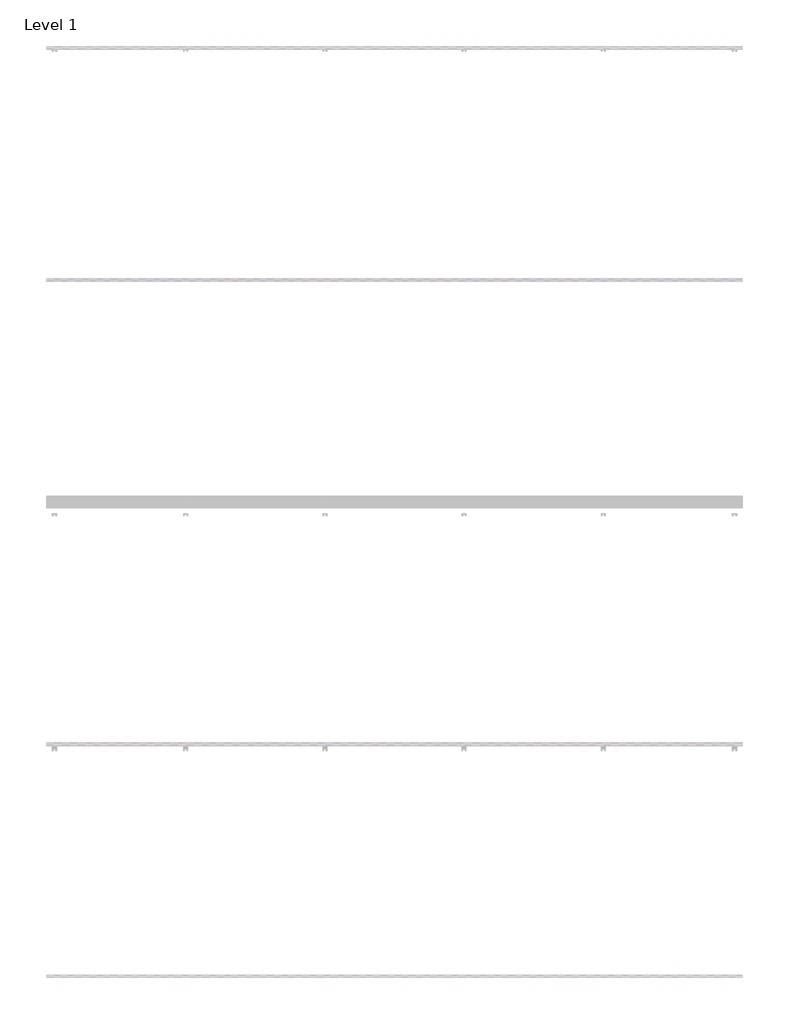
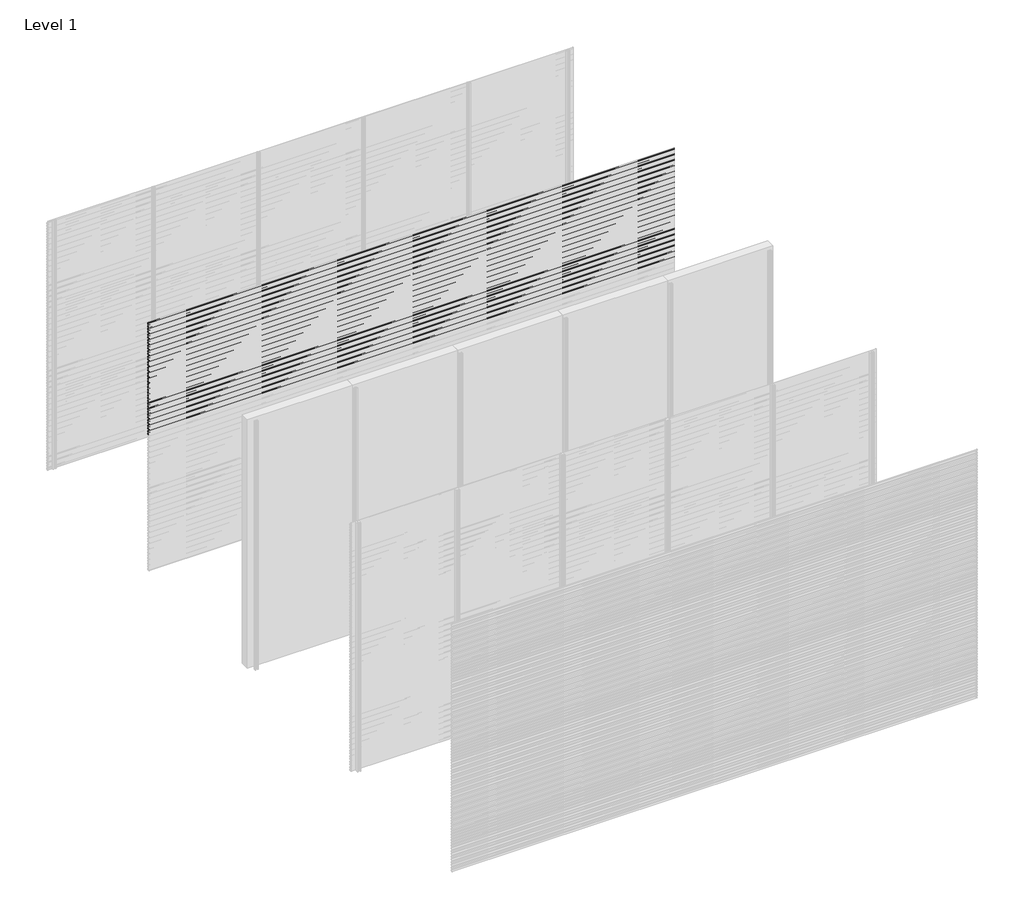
# One storey, part 63 of 77: 72 proxies.
"""IFC4 building model written with IfcOpenShell, lengths in millimetres."""

from ifc_helpers import new_model, si_unit, frame, origin, place, context, project, spatial, polyline, outline, extrude, element, save

model = new_model("IFC4")

# Units and contexts
model_context = context("Model", 3, world=origin())
ifc_project = project(units=[si_unit("LENGTHUNIT", "METRE", prefix="MILLI")], contexts=[model_context])

# Site, building, storey
site = spatial("IfcSite", under=ifc_project)
building = spatial("IfcBuilding", under=site)
storey = spatial("IfcBuildingStorey", under=building, Name="Level 1", Elevation=0.0)

# Proxies
placement = place(None, origin())
element("IfcBuildingElementProxy", 1, Name="Wall Sweeps", at=placement, inside=storey, context=model_context, shape_type="SweptSolid", body=[
    extrude(outline(polyline([(-7978.6, 2972.5359887), (-7998.0, 2983.7366691), (-7998.0, 2997.0), (-7997.0, 2997.0), (-7997.0, 2984.3191057), (-7977.6, 2973.1185105), (-7977.6, 2959.5185105), (-7978.6, 2961.0953129), (-7978.6, 2966.9032062), (-7995.9773817, 2958.8), (-7996.4, 2959.7063078), (-7978.6, 2968.0065841), (-7978.6, 2972.5359887)])), frame((0.0, 0.0, 0.0), z_axis=(1.0, 0.0, 0.0), x_axis=(0.0, 1.0, 0.0)), (0.0, 0.0, 1.0), 6000.0),
])
element("IfcBuildingElementProxy", 2, Name="Wall Sweeps", at=placement, inside=storey, context=model_context, shape_type="SweptSolid", body=[
    extrude(outline(polyline([(-7978.6, 2939.2359887), (-7998.0, 2950.4366691), (-7998.0, 2963.7), (-7997.0, 2963.7), (-7997.0, 2951.0191057), (-7977.6, 2939.8185105), (-7977.6, 2926.2185105), (-7978.6, 2927.7953129), (-7978.6, 2933.6032062), (-7995.9773817, 2925.5), (-7996.4, 2926.4063078), (-7978.6, 2934.7065841), (-7978.6, 2939.2359887)])), frame((0.0, 0.0, 0.0), z_axis=(1.0, 0.0, 0.0), x_axis=(0.0, 1.0, 0.0)), (0.0, 0.0, 1.0), 6000.0),
])
element("IfcBuildingElementProxy", 3, Name="Wall Sweeps", at=placement, inside=storey, context=model_context, shape_type="SweptSolid", body=[
    extrude(outline(polyline([(-7978.6, 2905.9359887), (-7998.0, 2917.1366691), (-7998.0, 2930.4), (-7997.0, 2930.4), (-7997.0, 2917.7191057), (-7977.6, 2906.5185105), (-7977.6, 2892.9185105), (-7978.6, 2894.4953129), (-7978.6, 2900.3032062), (-7995.9773817, 2892.2), (-7996.4, 2893.1063078), (-7978.6, 2901.4065841), (-7978.6, 2905.9359887)])), frame((0.0, 0.0, 0.0), z_axis=(1.0, 0.0, 0.0), x_axis=(0.0, 1.0, 0.0)), (0.0, 0.0, 1.0), 6000.0),
])
element("IfcBuildingElementProxy", 4, Name="Wall Sweeps", at=placement, inside=storey, context=model_context, shape_type="SweptSolid", body=[
    extrude(outline(polyline([(-7978.6, 2872.6359887), (-7998.0, 2883.8366691), (-7998.0, 2897.1), (-7997.0, 2897.1), (-7997.0, 2884.4191057), (-7977.6, 2873.2185105), (-7977.6, 2859.6185105), (-7978.6, 2861.1953129), (-7978.6, 2867.0032062), (-7995.9773817, 2858.9), (-7996.4, 2859.8063078), (-7978.6, 2868.1065841), (-7978.6, 2872.6359887)])), frame((0.0, 0.0, 0.0), z_axis=(1.0, 0.0, 0.0), x_axis=(0.0, 1.0, 0.0)), (0.0, 0.0, 1.0), 6000.0),
])
element("IfcBuildingElementProxy", 5, Name="Wall Sweeps", at=placement, inside=storey, context=model_context, shape_type="SweptSolid", body=[
    extrude(outline(polyline([(-7978.6, 2839.3359887), (-7998.0, 2850.5366691), (-7998.0, 2863.8), (-7997.0, 2863.8), (-7997.0, 2851.1191057), (-7977.6, 2839.9185105), (-7977.6, 2826.3185105), (-7978.6, 2827.8953129), (-7978.6, 2833.7032062), (-7995.9773817, 2825.6), (-7996.4, 2826.5063078), (-7978.6, 2834.8065841), (-7978.6, 2839.3359887)])), frame((0.0, 0.0, 0.0), z_axis=(1.0, 0.0, 0.0), x_axis=(0.0, 1.0, 0.0)), (0.0, 0.0, 1.0), 6000.0),
])
element("IfcBuildingElementProxy", 6, Name="Wall Sweeps", at=placement, inside=storey, context=model_context, shape_type="SweptSolid", body=[
    extrude(outline(polyline([(-7978.6, 2806.0359887), (-7998.0, 2817.2366691), (-7998.0, 2830.5), (-7997.0, 2830.5), (-7997.0, 2817.8191057), (-7977.6, 2806.6185105), (-7977.6, 2793.0185105), (-7978.6, 2794.5953129), (-7978.6, 2800.4032062), (-7995.9773817, 2792.3), (-7996.4, 2793.2063078), (-7978.6, 2801.5065841), (-7978.6, 2806.0359887)])), frame((0.0, 0.0, 0.0), z_axis=(1.0, 0.0, 0.0), x_axis=(0.0, 1.0, 0.0)), (0.0, 0.0, 1.0), 6000.0),
])
element("IfcBuildingElementProxy", 7, Name="Wall Sweeps", at=placement, inside=storey, context=model_context, shape_type="SweptSolid", body=[
    extrude(outline(polyline([(-7978.6, 2772.7359887), (-7998.0, 2783.9366691), (-7998.0, 2797.2), (-7997.0, 2797.2), (-7997.0, 2784.5191057), (-7977.6, 2773.3185105), (-7977.6, 2759.7185105), (-7978.6, 2761.2953129), (-7978.6, 2767.1032062), (-7995.9773817, 2759.0), (-7996.4, 2759.9063078), (-7978.6, 2768.2065841), (-7978.6, 2772.7359887)])), frame((0.0, 0.0, 0.0), z_axis=(1.0, 0.0, 0.0), x_axis=(0.0, 1.0, 0.0)), (0.0, 0.0, 1.0), 6000.0),
])
element("IfcBuildingElementProxy", 8, Name="Wall Sweeps", at=placement, inside=storey, context=model_context, shape_type="SweptSolid", body=[
    extrude(outline(polyline([(-7978.6, 2739.4359887), (-7998.0, 2750.6366691), (-7998.0, 2763.9), (-7997.0, 2763.9), (-7997.0, 2751.2191057), (-7977.6, 2740.0185105), (-7977.6, 2726.4185105), (-7978.6, 2727.9953129), (-7978.6, 2733.8032062), (-7995.9773817, 2725.7), (-7996.4, 2726.6063078), (-7978.6, 2734.9065841), (-7978.6, 2739.4359887)])), frame((0.0, 0.0, 0.0), z_axis=(1.0, 0.0, 0.0), x_axis=(0.0, 1.0, 0.0)), (0.0, 0.0, 1.0), 6000.0),
])
element("IfcBuildingElementProxy", 9, Name="Wall Sweeps", at=placement, inside=storey, context=model_context, shape_type="SweptSolid", body=[
    extrude(outline(polyline([(-7978.6, 2706.1359887), (-7998.0, 2717.3366691), (-7998.0, 2730.6), (-7997.0, 2730.6), (-7997.0, 2717.9191057), (-7977.6, 2706.7185105), (-7977.6, 2693.1185105), (-7978.6, 2694.6953129), (-7978.6, 2700.5032062), (-7995.9773817, 2692.4), (-7996.4, 2693.3063078), (-7978.6, 2701.6065841), (-7978.6, 2706.1359887)])), frame((0.0, 0.0, 0.0), z_axis=(1.0, 0.0, 0.0), x_axis=(0.0, 1.0, 0.0)), (0.0, 0.0, 1.0), 6000.0),
])
element("IfcBuildingElementProxy", 10, Name="Wall Sweeps", at=placement, inside=storey, context=model_context, shape_type="SweptSolid", body=[
    extrude(outline(polyline([(-7978.6, 2672.8359887), (-7998.0, 2684.0366691), (-7998.0, 2697.3), (-7997.0, 2697.3), (-7997.0, 2684.6191057), (-7977.6, 2673.4185105), (-7977.6, 2659.8185105), (-7978.6, 2661.3953129), (-7978.6, 2667.2032062), (-7995.9773817, 2659.1), (-7996.4, 2660.0063078), (-7978.6, 2668.3065841), (-7978.6, 2672.8359887)])), frame((0.0, 0.0, 0.0), z_axis=(1.0, 0.0, 0.0), x_axis=(0.0, 1.0, 0.0)), (0.0, 0.0, 1.0), 6000.0),
])
element("IfcBuildingElementProxy", 11, Name="Wall Sweeps", at=placement, inside=storey, context=model_context, shape_type="SweptSolid", body=[
    extrude(outline(polyline([(-7978.6, 2639.5359887), (-7998.0, 2650.7366691), (-7998.0, 2664.0), (-7997.0, 2664.0), (-7997.0, 2651.3191057), (-7977.6, 2640.1185105), (-7977.6, 2626.5185105), (-7978.6, 2628.0953129), (-7978.6, 2633.9032062), (-7995.9773817, 2625.8), (-7996.4, 2626.7063078), (-7978.6, 2635.0065841), (-7978.6, 2639.5359887)])), frame((0.0, 0.0, 0.0), z_axis=(1.0, 0.0, 0.0), x_axis=(0.0, 1.0, 0.0)), (0.0, 0.0, 1.0), 6000.0),
])
element("IfcBuildingElementProxy", 12, Name="Wall Sweeps", at=placement, inside=storey, context=model_context, shape_type="SweptSolid", body=[
    extrude(outline(polyline([(-7978.6, 2606.2359887), (-7998.0, 2617.4366691), (-7998.0, 2630.7), (-7997.0, 2630.7), (-7997.0, 2618.0191057), (-7977.6, 2606.8185105), (-7977.6, 2593.2185105), (-7978.6, 2594.7953129), (-7978.6, 2600.6032062), (-7995.9773817, 2592.5), (-7996.4, 2593.4063078), (-7978.6, 2601.7065841), (-7978.6, 2606.2359887)])), frame((0.0, 0.0, 0.0), z_axis=(1.0, 0.0, 0.0), x_axis=(0.0, 1.0, 0.0)), (0.0, 0.0, 1.0), 6000.0),
])
element("IfcBuildingElementProxy", 13, Name="Wall Sweeps", at=placement, inside=storey, context=model_context, shape_type="SweptSolid", body=[
    extrude(outline(polyline([(-7978.6, 2572.9359887), (-7998.0, 2584.1366691), (-7998.0, 2597.4), (-7997.0, 2597.4), (-7997.0, 2584.7191057), (-7977.6, 2573.5185105), (-7977.6, 2559.9185105), (-7978.6, 2561.4953129), (-7978.6, 2567.3032062), (-7995.9773817, 2559.2), (-7996.4, 2560.1063078), (-7978.6, 2568.4065841), (-7978.6, 2572.9359887)])), frame((0.0, 0.0, 0.0), z_axis=(1.0, 0.0, 0.0), x_axis=(0.0, 1.0, 0.0)), (0.0, 0.0, 1.0), 6000.0),
])
element("IfcBuildingElementProxy", 14, Name="Wall Sweeps", at=placement, inside=storey, context=model_context, shape_type="SweptSolid", body=[
    extrude(outline(polyline([(-7978.6, 2539.6359887), (-7998.0, 2550.8366691), (-7998.0, 2564.1), (-7997.0, 2564.1), (-7997.0, 2551.4191057), (-7977.6, 2540.2185105), (-7977.6, 2526.6185105), (-7978.6, 2528.1953129), (-7978.6, 2534.0032062), (-7995.9773817, 2525.9), (-7996.4, 2526.8063078), (-7978.6, 2535.1065841), (-7978.6, 2539.6359887)])), frame((0.0, 0.0, 0.0), z_axis=(1.0, 0.0, 0.0), x_axis=(0.0, 1.0, 0.0)), (0.0, 0.0, 1.0), 6000.0),
])
element("IfcBuildingElementProxy", 15, Name="Wall Sweeps", at=placement, inside=storey, context=model_context, shape_type="SweptSolid", body=[
    extrude(outline(polyline([(-7978.6, 2506.3359887), (-7998.0, 2517.5366691), (-7998.0, 2530.8), (-7997.0, 2530.8), (-7997.0, 2518.1191057), (-7977.6, 2506.9185105), (-7977.6, 2493.3185105), (-7978.6, 2494.8953129), (-7978.6, 2500.7032062), (-7995.9773817, 2492.6), (-7996.4, 2493.5063078), (-7978.6, 2501.8065841), (-7978.6, 2506.3359887)])), frame((0.0, 0.0, 0.0), z_axis=(1.0, 0.0, 0.0), x_axis=(0.0, 1.0, 0.0)), (0.0, 0.0, 1.0), 6000.0),
])
element("IfcBuildingElementProxy", 16, Name="Wall Sweeps", at=placement, inside=storey, context=model_context, shape_type="SweptSolid", body=[
    extrude(outline(polyline([(-7978.6, 2473.0359887), (-7998.0, 2484.2366691), (-7998.0, 2497.5), (-7997.0, 2497.5), (-7997.0, 2484.8191057), (-7977.6, 2473.6185105), (-7977.6, 2460.0185105), (-7978.6, 2461.5953129), (-7978.6, 2467.4032062), (-7995.9773817, 2459.3), (-7996.4, 2460.2063078), (-7978.6, 2468.5065841), (-7978.6, 2473.0359887)])), frame((0.0, 0.0, 0.0), z_axis=(1.0, 0.0, 0.0), x_axis=(0.0, 1.0, 0.0)), (0.0, 0.0, 1.0), 6000.0),
])
element("IfcBuildingElementProxy", 17, Name="Wall Sweeps", at=placement, inside=storey, context=model_context, shape_type="SweptSolid", body=[
    extrude(outline(polyline([(-7978.6, 2439.7359887), (-7998.0, 2450.9366691), (-7998.0, 2464.2), (-7997.0, 2464.2), (-7997.0, 2451.5191057), (-7977.6, 2440.3185105), (-7977.6, 2426.7185105), (-7978.6, 2428.2953129), (-7978.6, 2434.1032062), (-7995.9773817, 2426.0), (-7996.4, 2426.9063078), (-7978.6, 2435.2065841), (-7978.6, 2439.7359887)])), frame((0.0, 0.0, 0.0), z_axis=(1.0, 0.0, 0.0), x_axis=(0.0, 1.0, 0.0)), (0.0, 0.0, 1.0), 6000.0),
])
element("IfcBuildingElementProxy", 18, Name="Wall Sweeps", at=placement, inside=storey, context=model_context, shape_type="SweptSolid", body=[
    extrude(outline(polyline([(-7978.6, 2406.4359887), (-7998.0, 2417.6366691), (-7998.0, 2430.9), (-7997.0, 2430.9), (-7997.0, 2418.2191057), (-7977.6, 2407.0185105), (-7977.6, 2393.4185105), (-7978.6, 2394.9953129), (-7978.6, 2400.8032062), (-7995.9773817, 2392.7), (-7996.4, 2393.6063078), (-7978.6, 2401.9065841), (-7978.6, 2406.4359887)])), frame((0.0, 0.0, 0.0), z_axis=(1.0, 0.0, 0.0), x_axis=(0.0, 1.0, 0.0)), (0.0, 0.0, 1.0), 6000.0),
])
element("IfcBuildingElementProxy", 19, Name="Wall Sweeps", at=placement, inside=storey, context=model_context, shape_type="SweptSolid", body=[
    extrude(outline(polyline([(-7978.6, 2373.1359887), (-7998.0, 2384.3366691), (-7998.0, 2397.6), (-7997.0, 2397.6), (-7997.0, 2384.9191057), (-7977.6, 2373.7185105), (-7977.6, 2360.1185105), (-7978.6, 2361.6953129), (-7978.6, 2367.5032062), (-7995.9773817, 2359.4), (-7996.4, 2360.3063078), (-7978.6, 2368.6065841), (-7978.6, 2373.1359887)])), frame((0.0, 0.0, 0.0), z_axis=(1.0, 0.0, 0.0), x_axis=(0.0, 1.0, 0.0)), (0.0, 0.0, 1.0), 6000.0),
])
element("IfcBuildingElementProxy", 20, Name="Wall Sweeps", at=placement, inside=storey, context=model_context, shape_type="SweptSolid", body=[
    extrude(outline(polyline([(-7978.6, 2339.8359887), (-7998.0, 2351.0366691), (-7998.0, 2364.3), (-7997.0, 2364.3), (-7997.0, 2351.6191057), (-7977.6, 2340.4185105), (-7977.6, 2326.8185105), (-7978.6, 2328.3953129), (-7978.6, 2334.2032062), (-7995.9773817, 2326.1), (-7996.4, 2327.0063078), (-7978.6, 2335.3065841), (-7978.6, 2339.8359887)])), frame((0.0, 0.0, 0.0), z_axis=(1.0, 0.0, 0.0), x_axis=(0.0, 1.0, 0.0)), (0.0, 0.0, 1.0), 6000.0),
])
element("IfcBuildingElementProxy", 21, Name="Wall Sweeps", at=placement, inside=storey, context=model_context, shape_type="SweptSolid", body=[
    extrude(outline(polyline([(-7978.6, 2306.5359887), (-7998.0, 2317.7366691), (-7998.0, 2331.0), (-7997.0, 2331.0), (-7997.0, 2318.3191057), (-7977.6, 2307.1185105), (-7977.6, 2293.5185105), (-7978.6, 2295.0953129), (-7978.6, 2300.9032062), (-7995.9773817, 2292.8), (-7996.4, 2293.7063078), (-7978.6, 2302.0065841), (-7978.6, 2306.5359887)])), frame((0.0, 0.0, 0.0), z_axis=(1.0, 0.0, 0.0), x_axis=(0.0, 1.0, 0.0)), (0.0, 0.0, 1.0), 6000.0),
])
element("IfcBuildingElementProxy", 22, Name="Wall Sweeps", at=placement, inside=storey, context=model_context, shape_type="SweptSolid", body=[
    extrude(outline(polyline([(-7978.6, 2273.2359887), (-7998.0, 2284.4366691), (-7998.0, 2297.7), (-7997.0, 2297.7), (-7997.0, 2285.0191057), (-7977.6, 2273.8185105), (-7977.6, 2260.2185105), (-7978.6, 2261.7953129), (-7978.6, 2267.6032062), (-7995.9773817, 2259.5), (-7996.4, 2260.4063078), (-7978.6, 2268.7065841), (-7978.6, 2273.2359887)])), frame((0.0, 0.0, 0.0), z_axis=(1.0, 0.0, 0.0), x_axis=(0.0, 1.0, 0.0)), (0.0, 0.0, 1.0), 6000.0),
])
element("IfcBuildingElementProxy", 23, Name="Wall Sweeps", at=placement, inside=storey, context=model_context, shape_type="SweptSolid", body=[
    extrude(outline(polyline([(-7978.6, 2239.9359887), (-7998.0, 2251.1366691), (-7998.0, 2264.4), (-7997.0, 2264.4), (-7997.0, 2251.7191057), (-7977.6, 2240.5185105), (-7977.6, 2226.9185105), (-7978.6, 2228.4953129), (-7978.6, 2234.3032062), (-7995.9773817, 2226.2), (-7996.4, 2227.1063078), (-7978.6, 2235.4065841), (-7978.6, 2239.9359887)])), frame((0.0, 0.0, 0.0), z_axis=(1.0, 0.0, 0.0), x_axis=(0.0, 1.0, 0.0)), (0.0, 0.0, 1.0), 6000.0),
])
element("IfcBuildingElementProxy", 24, Name="Wall Sweeps", at=placement, inside=storey, context=model_context, shape_type="SweptSolid", body=[
    extrude(outline(polyline([(-7978.6, 2206.6359887), (-7998.0, 2217.8366691), (-7998.0, 2231.1), (-7997.0, 2231.1), (-7997.0, 2218.4191057), (-7977.6, 2207.2185105), (-7977.6, 2193.6185105), (-7978.6, 2195.1953129), (-7978.6, 2201.0032062), (-7995.9773817, 2192.9), (-7996.4, 2193.8063078), (-7978.6, 2202.1065841), (-7978.6, 2206.6359887)])), frame((0.0, 0.0, 0.0), z_axis=(1.0, 0.0, 0.0), x_axis=(0.0, 1.0, 0.0)), (0.0, 0.0, 1.0), 6000.0),
])
element("IfcBuildingElementProxy", 25, Name="Wall Sweeps", at=placement, inside=storey, context=model_context, shape_type="SweptSolid", body=[
    extrude(outline(polyline([(-7978.6, 2173.3359887), (-7998.0, 2184.5366691), (-7998.0, 2197.8), (-7997.0, 2197.8), (-7997.0, 2185.1191057), (-7977.6, 2173.9185105), (-7977.6, 2160.3185105), (-7978.6, 2161.8953129), (-7978.6, 2167.7032062), (-7995.9773817, 2159.6), (-7996.4, 2160.5063078), (-7978.6, 2168.8065841), (-7978.6, 2173.3359887)])), frame((0.0, 0.0, 0.0), z_axis=(1.0, 0.0, 0.0), x_axis=(0.0, 1.0, 0.0)), (0.0, 0.0, 1.0), 6000.0),
])
element("IfcBuildingElementProxy", 26, Name="Wall Sweeps", at=placement, inside=storey, context=model_context, shape_type="SweptSolid", body=[
    extrude(outline(polyline([(-7978.6, 2140.0359887), (-7998.0, 2151.2366691), (-7998.0, 2164.5), (-7997.0, 2164.5), (-7997.0, 2151.8191057), (-7977.6, 2140.6185105), (-7977.6, 2127.0185105), (-7978.6, 2128.5953129), (-7978.6, 2134.4032062), (-7995.9773817, 2126.3), (-7996.4, 2127.2063078), (-7978.6, 2135.5065841), (-7978.6, 2140.0359887)])), frame((0.0, 0.0, 0.0), z_axis=(1.0, 0.0, 0.0), x_axis=(0.0, 1.0, 0.0)), (0.0, 0.0, 1.0), 6000.0),
])
element("IfcBuildingElementProxy", 27, Name="Wall Sweeps", at=placement, inside=storey, context=model_context, shape_type="SweptSolid", body=[
    extrude(outline(polyline([(-7978.6, 2106.7359887), (-7998.0, 2117.9366691), (-7998.0, 2131.2), (-7997.0, 2131.2), (-7997.0, 2118.5191057), (-7977.6, 2107.3185105), (-7977.6, 2093.7185105), (-7978.6, 2095.2953129), (-7978.6, 2101.1032062), (-7995.9773817, 2093.0), (-7996.4, 2093.9063078), (-7978.6, 2102.2065841), (-7978.6, 2106.7359887)])), frame((0.0, 0.0, 0.0), z_axis=(1.0, 0.0, 0.0), x_axis=(0.0, 1.0, 0.0)), (0.0, 0.0, 1.0), 6000.0),
])
element("IfcBuildingElementProxy", 28, Name="Wall Sweeps", at=placement, inside=storey, context=model_context, shape_type="SweptSolid", body=[
    extrude(outline(polyline([(-7978.6, 2073.4359887), (-7998.0, 2084.6366691), (-7998.0, 2097.9), (-7997.0, 2097.9), (-7997.0, 2085.2191057), (-7977.6, 2074.0185105), (-7977.6, 2060.4185105), (-7978.6, 2061.9953129), (-7978.6, 2067.8032062), (-7995.9773817, 2059.7), (-7996.4, 2060.6063078), (-7978.6, 2068.9065841), (-7978.6, 2073.4359887)])), frame((0.0, 0.0, 0.0), z_axis=(1.0, 0.0, 0.0), x_axis=(0.0, 1.0, 0.0)), (0.0, 0.0, 1.0), 6000.0),
])
element("IfcBuildingElementProxy", 29, Name="Wall Sweeps", at=placement, inside=storey, context=model_context, shape_type="SweptSolid", body=[
    extrude(outline(polyline([(-7978.6, 2040.1359887), (-7998.0, 2051.3366691), (-7998.0, 2064.6), (-7997.0, 2064.6), (-7997.0, 2051.9191057), (-7977.6, 2040.7185105), (-7977.6, 2027.1185105), (-7978.6, 2028.6953129), (-7978.6, 2034.5032062), (-7995.9773817, 2026.4), (-7996.4, 2027.3063078), (-7978.6, 2035.6065841), (-7978.6, 2040.1359887)])), frame((0.0, 0.0, 0.0), z_axis=(1.0, 0.0, 0.0), x_axis=(0.0, 1.0, 0.0)), (0.0, 0.0, 1.0), 6000.0),
])
element("IfcBuildingElementProxy", 30, Name="Wall Sweeps", at=placement, inside=storey, context=model_context, shape_type="SweptSolid", body=[
    extrude(outline(polyline([(-7978.6, 2006.8359887), (-7998.0, 2018.0366691), (-7998.0, 2031.3), (-7997.0, 2031.3), (-7997.0, 2018.6191057), (-7977.6, 2007.4185105), (-7977.6, 1993.8185105), (-7978.6, 1995.3953129), (-7978.6, 2001.2032062), (-7995.9773817, 1993.1), (-7996.4, 1994.0063078), (-7978.6, 2002.3065841), (-7978.6, 2006.8359887)])), frame((0.0, 0.0, 0.0), z_axis=(1.0, 0.0, 0.0), x_axis=(0.0, 1.0, 0.0)), (0.0, 0.0, 1.0), 6000.0),
])
element("IfcBuildingElementProxy", 31, Name="Wall Sweeps", at=placement, inside=storey, context=model_context, shape_type="SweptSolid", body=[
    extrude(outline(polyline([(-7978.6, 1973.5359887), (-7998.0, 1984.7366691), (-7998.0, 1998.0), (-7997.0, 1998.0), (-7997.0, 1985.3191057), (-7977.6, 1974.1185105), (-7977.6, 1960.5185105), (-7978.6, 1962.0953129), (-7978.6, 1967.9032062), (-7995.9773817, 1959.8), (-7996.4, 1960.7063078), (-7978.6, 1969.0065841), (-7978.6, 1973.5359887)])), frame((0.0, 0.0, 0.0), z_axis=(1.0, 0.0, 0.0), x_axis=(0.0, 1.0, 0.0)), (0.0, 0.0, 1.0), 6000.0),
])
element("IfcBuildingElementProxy", 32, Name="Wall Sweeps", at=placement, inside=storey, context=model_context, shape_type="SweptSolid", body=[
    extrude(outline(polyline([(-7978.6, 1940.2359887), (-7998.0, 1951.4366691), (-7998.0, 1964.7), (-7997.0, 1964.7), (-7997.0, 1952.0191057), (-7977.6, 1940.8185105), (-7977.6, 1927.2185105), (-7978.6, 1928.7953129), (-7978.6, 1934.6032062), (-7995.9773817, 1926.5), (-7996.4, 1927.4063078), (-7978.6, 1935.7065841), (-7978.6, 1940.2359887)])), frame((0.0, 0.0, 0.0), z_axis=(1.0, 0.0, 0.0), x_axis=(0.0, 1.0, 0.0)), (0.0, 0.0, 1.0), 6000.0),
])
element("IfcBuildingElementProxy", 33, Name="Wall Sweeps", at=placement, inside=storey, context=model_context, shape_type="SweptSolid", body=[
    extrude(outline(polyline([(-7978.6, 1906.9359887), (-7998.0, 1918.1366691), (-7998.0, 1931.4), (-7997.0, 1931.4), (-7997.0, 1918.7191057), (-7977.6, 1907.5185105), (-7977.6, 1893.9185105), (-7978.6, 1895.4953129), (-7978.6, 1901.3032062), (-7995.9773817, 1893.2), (-7996.4, 1894.1063078), (-7978.6, 1902.4065841), (-7978.6, 1906.9359887)])), frame((0.0, 0.0, 0.0), z_axis=(1.0, 0.0, 0.0), x_axis=(0.0, 1.0, 0.0)), (0.0, 0.0, 1.0), 6000.0),
])
element("IfcBuildingElementProxy", 34, Name="Wall Sweeps", at=placement, inside=storey, context=model_context, shape_type="SweptSolid", body=[
    extrude(outline(polyline([(-7978.6, 1873.6359887), (-7998.0, 1884.8366691), (-7998.0, 1898.1), (-7997.0, 1898.1), (-7997.0, 1885.4191057), (-7977.6, 1874.2185105), (-7977.6, 1860.6185105), (-7978.6, 1862.1953129), (-7978.6, 1868.0032062), (-7995.9773817, 1859.9), (-7996.4, 1860.8063078), (-7978.6, 1869.1065841), (-7978.6, 1873.6359887)])), frame((0.0, 0.0, 0.0), z_axis=(1.0, 0.0, 0.0), x_axis=(0.0, 1.0, 0.0)), (0.0, 0.0, 1.0), 6000.0),
])
element("IfcBuildingElementProxy", 35, Name="Wall Sweeps", at=placement, inside=storey, context=model_context, shape_type="SweptSolid", body=[
    extrude(outline(polyline([(-7978.6, 1840.3359887), (-7998.0, 1851.5366691), (-7998.0, 1864.8), (-7997.0, 1864.8), (-7997.0, 1852.1191057), (-7977.6, 1840.9185105), (-7977.6, 1827.3185105), (-7978.6, 1828.8953129), (-7978.6, 1834.7032062), (-7995.9773817, 1826.6), (-7996.4, 1827.5063078), (-7978.6, 1835.8065841), (-7978.6, 1840.3359887)])), frame((0.0, 0.0, 0.0), z_axis=(1.0, 0.0, 0.0), x_axis=(0.0, 1.0, 0.0)), (0.0, 0.0, 1.0), 6000.0),
])
element("IfcBuildingElementProxy", 36, Name="Wall Sweeps", at=placement, inside=storey, context=model_context, shape_type="SweptSolid", body=[
    extrude(outline(polyline([(-7978.6, 1807.0359887), (-7998.0, 1818.2366691), (-7998.0, 1831.5), (-7997.0, 1831.5), (-7997.0, 1818.8191057), (-7977.6, 1807.6185105), (-7977.6, 1794.0185105), (-7978.6, 1795.5953129), (-7978.6, 1801.4032062), (-7995.9773817, 1793.3), (-7996.4, 1794.2063078), (-7978.6, 1802.5065841), (-7978.6, 1807.0359887)])), frame((0.0, 0.0, 0.0), z_axis=(1.0, 0.0, 0.0), x_axis=(0.0, 1.0, 0.0)), (0.0, 0.0, 1.0), 6000.0),
])
element("IfcBuildingElementProxy", 37, Name="Wall Sweeps", at=placement, inside=storey, context=model_context, shape_type="SweptSolid", body=[
    extrude(outline(polyline([(-7978.6, 1773.7359887), (-7998.0, 1784.9366691), (-7998.0, 1798.2), (-7997.0, 1798.2), (-7997.0, 1785.5191057), (-7977.6, 1774.3185105), (-7977.6, 1760.7185105), (-7978.6, 1762.2953129), (-7978.6, 1768.1032062), (-7995.9773817, 1760.0), (-7996.4, 1760.9063078), (-7978.6, 1769.2065841), (-7978.6, 1773.7359887)])), frame((0.0, 0.0, 0.0), z_axis=(1.0, 0.0, 0.0), x_axis=(0.0, 1.0, 0.0)), (0.0, 0.0, 1.0), 6000.0),
])
element("IfcBuildingElementProxy", 38, Name="Wall Sweeps", at=placement, inside=storey, context=model_context, shape_type="SweptSolid", body=[
    extrude(outline(polyline([(-7978.6, 1740.4359887), (-7998.0, 1751.6366691), (-7998.0, 1764.9), (-7997.0, 1764.9), (-7997.0, 1752.2191057), (-7977.6, 1741.0185105), (-7977.6, 1727.4185105), (-7978.6, 1728.9953129), (-7978.6, 1734.8032062), (-7995.9773817, 1726.7), (-7996.4, 1727.6063078), (-7978.6, 1735.9065841), (-7978.6, 1740.4359887)])), frame((0.0, 0.0, 0.0), z_axis=(1.0, 0.0, 0.0), x_axis=(0.0, 1.0, 0.0)), (0.0, 0.0, 1.0), 6000.0),
])
element("IfcBuildingElementProxy", 39, Name="Wall Sweeps", at=placement, inside=storey, context=model_context, shape_type="SweptSolid", body=[
    extrude(outline(polyline([(-7978.6, 1707.1359887), (-7998.0, 1718.3366691), (-7998.0, 1731.6), (-7997.0, 1731.6), (-7997.0, 1718.9191057), (-7977.6, 1707.7185105), (-7977.6, 1694.1185105), (-7978.6, 1695.6953129), (-7978.6, 1701.5032062), (-7995.9773817, 1693.4), (-7996.4, 1694.3063078), (-7978.6, 1702.6065841), (-7978.6, 1707.1359887)])), frame((0.0, 0.0, 0.0), z_axis=(1.0, 0.0, 0.0), x_axis=(0.0, 1.0, 0.0)), (0.0, 0.0, 1.0), 6000.0),
])
element("IfcBuildingElementProxy", 40, Name="Wall Sweeps", at=placement, inside=storey, context=model_context, shape_type="SweptSolid", body=[
    extrude(outline(polyline([(-7978.6, 1673.8359887), (-7998.0, 1685.0366691), (-7998.0, 1698.3), (-7997.0, 1698.3), (-7997.0, 1685.6191057), (-7977.6, 1674.4185105), (-7977.6, 1660.8185105), (-7978.6, 1662.3953129), (-7978.6, 1668.2032062), (-7995.9773817, 1660.1), (-7996.4, 1661.0063078), (-7978.6, 1669.3065841), (-7978.6, 1673.8359887)])), frame((0.0, 0.0, 0.0), z_axis=(1.0, 0.0, 0.0), x_axis=(0.0, 1.0, 0.0)), (0.0, 0.0, 1.0), 6000.0),
])
element("IfcBuildingElementProxy", 41, Name="Wall Sweeps", at=placement, inside=storey, context=model_context, shape_type="SweptSolid", body=[
    extrude(outline(polyline([(-7978.6, 1640.5359887), (-7998.0, 1651.7366691), (-7998.0, 1665.0), (-7997.0, 1665.0), (-7997.0, 1652.3191057), (-7977.6, 1641.1185105), (-7977.6, 1627.5185105), (-7978.6, 1629.0953129), (-7978.6, 1634.9032062), (-7995.9773817, 1626.8), (-7996.4, 1627.7063078), (-7978.6, 1636.0065841), (-7978.6, 1640.5359887)])), frame((0.0, 0.0, 0.0), z_axis=(1.0, 0.0, 0.0), x_axis=(0.0, 1.0, 0.0)), (0.0, 0.0, 1.0), 6000.0),
])
element("IfcBuildingElementProxy", 42, Name="Wall Sweeps", at=placement, inside=storey, context=model_context, shape_type="SweptSolid", body=[
    extrude(outline(polyline([(-11978.6, 1007.8359887), (-11998.0, 1019.0366691), (-11998.0, 1032.3), (-11997.0, 1032.3), (-11997.0, 1019.6191057), (-11977.6, 1008.4185105), (-11977.6, 994.8185105), (-11978.6, 996.3953129), (-11978.6, 1002.2032062), (-11995.9773817, 994.1), (-11996.4, 995.0063078), (-11978.6, 1003.3065841), (-11978.6, 1007.8359887)])), frame((4800.0, 0.0, 0.0), z_axis=(1.0, 0.0, 0.0), x_axis=(0.0, 1.0, 0.0)), (0.0, 0.0, 1.0), 1200.0),
])
element("IfcBuildingElementProxy", 43, Name="Wall Sweeps", at=placement, inside=storey, context=model_context, shape_type="SweptSolid", body=[
    extrude(outline(polyline([(-11978.6, 974.5359887), (-11998.0, 985.7366691), (-11998.0, 999.0), (-11997.0, 999.0), (-11997.0, 986.3191057), (-11977.6, 975.1185105), (-11977.6, 961.5185105), (-11978.6, 963.0953129), (-11978.6, 968.9032062), (-11995.9773817, 960.8), (-11996.4, 961.7063078), (-11978.6, 970.0065841), (-11978.6, 974.5359887)])), frame((4800.0, 0.0, 0.0), z_axis=(1.0, 0.0, 0.0), x_axis=(0.0, 1.0, 0.0)), (0.0, 0.0, 1.0), 1200.0),
])
element("IfcBuildingElementProxy", 44, Name="Wall Sweeps", at=placement, inside=storey, context=model_context, shape_type="SweptSolid", body=[
    extrude(outline(polyline([(-11978.6, 941.2359887), (-11998.0, 952.4366691), (-11998.0, 965.7), (-11997.0, 965.7), (-11997.0, 953.0191057), (-11977.6, 941.8185105), (-11977.6, 928.2185105), (-11978.6, 929.7953129), (-11978.6, 935.6032062), (-11995.9773817, 927.5), (-11996.4, 928.4063078), (-11978.6, 936.7065841), (-11978.6, 941.2359887)])), frame((4800.0, 0.0, 0.0), z_axis=(1.0, 0.0, 0.0), x_axis=(0.0, 1.0, 0.0)), (0.0, 0.0, 1.0), 1200.0),
])
element("IfcBuildingElementProxy", 45, Name="Wall Sweeps", at=placement, inside=storey, context=model_context, shape_type="SweptSolid", body=[
    extrude(outline(polyline([(-11978.6, 907.9359887), (-11998.0, 919.1366691), (-11998.0, 932.4), (-11997.0, 932.4), (-11997.0, 919.7191057), (-11977.6, 908.5185105), (-11977.6, 894.9185105), (-11978.6, 896.4953129), (-11978.6, 902.3032062), (-11995.9773817, 894.2), (-11996.4, 895.1063078), (-11978.6, 903.4065841), (-11978.6, 907.9359887)])), frame((4800.0, 0.0, 0.0), z_axis=(1.0, 0.0, 0.0), x_axis=(0.0, 1.0, 0.0)), (0.0, 0.0, 1.0), 1200.0),
])
element("IfcBuildingElementProxy", 46, Name="Wall Sweeps", at=placement, inside=storey, context=model_context, shape_type="SweptSolid", body=[
    extrude(outline(polyline([(-11978.6, 874.6359887), (-11998.0, 885.8366691), (-11998.0, 899.1), (-11997.0, 899.1), (-11997.0, 886.4191057), (-11977.6, 875.2185105), (-11977.6, 861.6185105), (-11978.6, 863.1953129), (-11978.6, 869.0032062), (-11995.9773817, 860.9), (-11996.4, 861.8063078), (-11978.6, 870.1065841), (-11978.6, 874.6359887)])), frame((4800.0, 0.0, 0.0), z_axis=(1.0, 0.0, 0.0), x_axis=(0.0, 1.0, 0.0)), (0.0, 0.0, 1.0), 1200.0),
])
element("IfcBuildingElementProxy", 47, Name="Wall Sweeps", at=placement, inside=storey, context=model_context, shape_type="SweptSolid", body=[
    extrude(outline(polyline([(-11978.6, 841.3359887), (-11998.0, 852.5366691), (-11998.0, 865.8), (-11997.0, 865.8), (-11997.0, 853.1191057), (-11977.6, 841.9185105), (-11977.6, 828.3185105), (-11978.6, 829.8953129), (-11978.6, 835.7032062), (-11995.9773817, 827.6), (-11996.4, 828.5063078), (-11978.6, 836.8065841), (-11978.6, 841.3359887)])), frame((4800.0, 0.0, 0.0), z_axis=(1.0, 0.0, 0.0), x_axis=(0.0, 1.0, 0.0)), (0.0, 0.0, 1.0), 1200.0),
])
element("IfcBuildingElementProxy", 48, Name="Wall Sweeps", at=placement, inside=storey, context=model_context, shape_type="SweptSolid", body=[
    extrude(outline(polyline([(-11978.6, 808.0359887), (-11998.0, 819.2366691), (-11998.0, 832.5), (-11997.0, 832.5), (-11997.0, 819.8191057), (-11977.6, 808.6185105), (-11977.6, 795.0185105), (-11978.6, 796.5953129), (-11978.6, 802.4032062), (-11995.9773817, 794.3), (-11996.4, 795.2063078), (-11978.6, 803.5065841), (-11978.6, 808.0359887)])), frame((4800.0, 0.0, 0.0), z_axis=(1.0, 0.0, 0.0), x_axis=(0.0, 1.0, 0.0)), (0.0, 0.0, 1.0), 1200.0),
])
element("IfcBuildingElementProxy", 49, Name="Wall Sweeps", at=placement, inside=storey, context=model_context, shape_type="SweptSolid", body=[
    extrude(outline(polyline([(-11978.6, 774.7359887), (-11998.0, 785.9366691), (-11998.0, 799.2), (-11997.0, 799.2), (-11997.0, 786.5191057), (-11977.6, 775.3185105), (-11977.6, 761.7185105), (-11978.6, 763.2953129), (-11978.6, 769.1032062), (-11995.9773817, 761.0), (-11996.4, 761.9063078), (-11978.6, 770.2065841), (-11978.6, 774.7359887)])), frame((4800.0, 0.0, 0.0), z_axis=(1.0, 0.0, 0.0), x_axis=(0.0, 1.0, 0.0)), (0.0, 0.0, 1.0), 1200.0),
])
element("IfcBuildingElementProxy", 50, Name="Wall Sweeps", at=placement, inside=storey, context=model_context, shape_type="SweptSolid", body=[
    extrude(outline(polyline([(-11978.6, 741.4359887), (-11998.0, 752.6366691), (-11998.0, 765.9), (-11997.0, 765.9), (-11997.0, 753.2191057), (-11977.6, 742.0185105), (-11977.6, 728.4185105), (-11978.6, 729.9953129), (-11978.6, 735.8032062), (-11995.9773817, 727.7), (-11996.4, 728.6063078), (-11978.6, 736.9065841), (-11978.6, 741.4359887)])), frame((4800.0, 0.0, 0.0), z_axis=(1.0, 0.0, 0.0), x_axis=(0.0, 1.0, 0.0)), (0.0, 0.0, 1.0), 1200.0),
])
element("IfcBuildingElementProxy", 51, Name="Wall Sweeps", at=placement, inside=storey, context=model_context, shape_type="SweptSolid", body=[
    extrude(outline(polyline([(-11978.6, 708.1359887), (-11998.0, 719.3366691), (-11998.0, 732.6), (-11997.0, 732.6), (-11997.0, 719.9191057), (-11977.6, 708.7185105), (-11977.6, 695.1185105), (-11978.6, 696.6953129), (-11978.6, 702.5032062), (-11995.9773817, 694.4), (-11996.4, 695.3063078), (-11978.6, 703.6065841), (-11978.6, 708.1359887)])), frame((4800.0, 0.0, 0.0), z_axis=(1.0, 0.0, 0.0), x_axis=(0.0, 1.0, 0.0)), (0.0, 0.0, 1.0), 1200.0),
])
element("IfcBuildingElementProxy", 52, Name="Wall Sweeps", at=placement, inside=storey, context=model_context, shape_type="SweptSolid", body=[
    extrude(outline(polyline([(-11978.6, 674.8359887), (-11998.0, 686.0366691), (-11998.0, 699.3), (-11997.0, 699.3), (-11997.0, 686.6191057), (-11977.6, 675.4185105), (-11977.6, 661.8185105), (-11978.6, 663.3953129), (-11978.6, 669.2032062), (-11995.9773817, 661.1), (-11996.4, 662.0063078), (-11978.6, 670.3065841), (-11978.6, 674.8359887)])), frame((4800.0, 0.0, 0.0), z_axis=(1.0, 0.0, 0.0), x_axis=(0.0, 1.0, 0.0)), (0.0, 0.0, 1.0), 1200.0),
])
element("IfcBuildingElementProxy", 53, Name="Wall Sweeps", at=placement, inside=storey, context=model_context, shape_type="SweptSolid", body=[
    extrude(outline(polyline([(-11978.6, 641.5359887), (-11998.0, 652.7366691), (-11998.0, 666.0), (-11997.0, 666.0), (-11997.0, 653.3191057), (-11977.6, 642.1185105), (-11977.6, 628.5185105), (-11978.6, 630.0953129), (-11978.6, 635.9032062), (-11995.9773817, 627.8), (-11996.4, 628.7063078), (-11978.6, 637.0065841), (-11978.6, 641.5359887)])), frame((4800.0, 0.0, 0.0), z_axis=(1.0, 0.0, 0.0), x_axis=(0.0, 1.0, 0.0)), (0.0, 0.0, 1.0), 1200.0),
])
element("IfcBuildingElementProxy", 54, Name="Wall Sweeps", at=placement, inside=storey, context=model_context, shape_type="SweptSolid", body=[
    extrude(outline(polyline([(-11978.6, 608.2359887), (-11998.0, 619.4366691), (-11998.0, 632.7), (-11997.0, 632.7), (-11997.0, 620.0191057), (-11977.6, 608.8185105), (-11977.6, 595.2185105), (-11978.6, 596.7953129), (-11978.6, 602.6032062), (-11995.9773817, 594.5), (-11996.4, 595.4063078), (-11978.6, 603.7065841), (-11978.6, 608.2359887)])), frame((4800.0, 0.0, 0.0), z_axis=(1.0, 0.0, 0.0), x_axis=(0.0, 1.0, 0.0)), (0.0, 0.0, 1.0), 1200.0),
])
element("IfcBuildingElementProxy", 55, Name="Wall Sweeps", at=placement, inside=storey, context=model_context, shape_type="SweptSolid", body=[
    extrude(outline(polyline([(-11978.6, 574.9359887), (-11998.0, 586.1366691), (-11998.0, 599.4), (-11997.0, 599.4), (-11997.0, 586.7191057), (-11977.6, 575.5185105), (-11977.6, 561.9185105), (-11978.6, 563.4953129), (-11978.6, 569.3032062), (-11995.9773817, 561.2), (-11996.4, 562.1063078), (-11978.6, 570.4065841), (-11978.6, 574.9359887)])), frame((4800.0, 0.0, 0.0), z_axis=(1.0, 0.0, 0.0), x_axis=(0.0, 1.0, 0.0)), (0.0, 0.0, 1.0), 1200.0),
])
element("IfcBuildingElementProxy", 56, Name="Wall Sweeps", at=placement, inside=storey, context=model_context, shape_type="SweptSolid", body=[
    extrude(outline(polyline([(-11978.6, 541.6359887), (-11998.0, 552.8366691), (-11998.0, 566.1), (-11997.0, 566.1), (-11997.0, 553.4191057), (-11977.6, 542.2185105), (-11977.6, 528.6185105), (-11978.6, 530.1953129), (-11978.6, 536.0032062), (-11995.9773817, 527.9), (-11996.4, 528.8063078), (-11978.6, 537.1065841), (-11978.6, 541.6359887)])), frame((4800.0, 0.0, 0.0), z_axis=(1.0, 0.0, 0.0), x_axis=(0.0, 1.0, 0.0)), (0.0, 0.0, 1.0), 1200.0),
])
element("IfcBuildingElementProxy", 57, Name="Wall Sweeps", at=placement, inside=storey, context=model_context, shape_type="SweptSolid", body=[
    extrude(outline(polyline([(-11978.6, 508.3359887), (-11998.0, 519.5366691), (-11998.0, 532.8), (-11997.0, 532.8), (-11997.0, 520.1191057), (-11977.6, 508.9185105), (-11977.6, 495.3185105), (-11978.6, 496.8953129), (-11978.6, 502.7032062), (-11995.9773817, 494.6), (-11996.4, 495.5063078), (-11978.6, 503.8065841), (-11978.6, 508.3359887)])), frame((4800.0, 0.0, 0.0), z_axis=(1.0, 0.0, 0.0), x_axis=(0.0, 1.0, 0.0)), (0.0, 0.0, 1.0), 1200.0),
])
element("IfcBuildingElementProxy", 58, Name="Wall Sweeps", at=placement, inside=storey, context=model_context, shape_type="SweptSolid", body=[
    extrude(outline(polyline([(-11978.6, 475.0359887), (-11998.0, 486.2366691), (-11998.0, 499.5), (-11997.0, 499.5), (-11997.0, 486.8191057), (-11977.6, 475.6185105), (-11977.6, 462.0185105), (-11978.6, 463.5953129), (-11978.6, 469.4032062), (-11995.9773817, 461.3), (-11996.4, 462.2063078), (-11978.6, 470.5065841), (-11978.6, 475.0359887)])), frame((4800.0, 0.0, 0.0), z_axis=(1.0, 0.0, 0.0), x_axis=(0.0, 1.0, 0.0)), (0.0, 0.0, 1.0), 1200.0),
])
element("IfcBuildingElementProxy", 59, Name="Wall Sweeps", at=placement, inside=storey, context=model_context, shape_type="SweptSolid", body=[
    extrude(outline(polyline([(-11978.6, 441.7359887), (-11998.0, 452.9366691), (-11998.0, 466.2), (-11997.0, 466.2), (-11997.0, 453.5191057), (-11977.6, 442.3185105), (-11977.6, 428.7185105), (-11978.6, 430.2953129), (-11978.6, 436.1032062), (-11995.9773817, 428.0), (-11996.4, 428.9063078), (-11978.6, 437.2065841), (-11978.6, 441.7359887)])), frame((4800.0, 0.0, 0.0), z_axis=(1.0, 0.0, 0.0), x_axis=(0.0, 1.0, 0.0)), (0.0, 0.0, 1.0), 1200.0),
])
element("IfcBuildingElementProxy", 60, Name="Wall Sweeps", at=placement, inside=storey, context=model_context, shape_type="SweptSolid", body=[
    extrude(outline(polyline([(-11978.6, 408.4359887), (-11998.0, 419.6366691), (-11998.0, 432.9), (-11997.0, 432.9), (-11997.0, 420.2191057), (-11977.6, 409.0185105), (-11977.6, 395.4185105), (-11978.6, 396.9953129), (-11978.6, 402.8032062), (-11995.9773817, 394.7), (-11996.4, 395.6063078), (-11978.6, 403.9065841), (-11978.6, 408.4359887)])), frame((4800.0, 0.0, 0.0), z_axis=(1.0, 0.0, 0.0), x_axis=(0.0, 1.0, 0.0)), (0.0, 0.0, 1.0), 1200.0),
])
element("IfcBuildingElementProxy", 61, Name="Wall Sweeps", at=placement, inside=storey, context=model_context, shape_type="SweptSolid", body=[
    extrude(outline(polyline([(-11978.6, 375.1359887), (-11998.0, 386.3366691), (-11998.0, 399.6), (-11997.0, 399.6), (-11997.0, 386.9191057), (-11977.6, 375.7185105), (-11977.6, 362.1185105), (-11978.6, 363.6953129), (-11978.6, 369.5032062), (-11995.9773817, 361.4), (-11996.4, 362.3063078), (-11978.6, 370.6065841), (-11978.6, 375.1359887)])), frame((4800.0, 0.0, 0.0), z_axis=(1.0, 0.0, 0.0), x_axis=(0.0, 1.0, 0.0)), (0.0, 0.0, 1.0), 1200.0),
])
element("IfcBuildingElementProxy", 62, Name="Wall Sweeps", at=placement, inside=storey, context=model_context, shape_type="SweptSolid", body=[
    extrude(outline(polyline([(-11978.6, 341.8359887), (-11998.0, 353.0366691), (-11998.0, 366.3), (-11997.0, 366.3), (-11997.0, 353.6191057), (-11977.6, 342.4185105), (-11977.6, 328.8185105), (-11978.6, 330.3953129), (-11978.6, 336.2032062), (-11995.9773817, 328.1), (-11996.4, 329.0063078), (-11978.6, 337.3065841), (-11978.6, 341.8359887)])), frame((4800.0, 0.0, 0.0), z_axis=(1.0, 0.0, 0.0), x_axis=(0.0, 1.0, 0.0)), (0.0, 0.0, 1.0), 1200.0),
])
element("IfcBuildingElementProxy", 63, Name="Wall Sweeps", at=placement, inside=storey, context=model_context, shape_type="SweptSolid", body=[
    extrude(outline(polyline([(-11978.6, 308.5359887), (-11998.0, 319.7366691), (-11998.0, 333.0), (-11997.0, 333.0), (-11997.0, 320.3191057), (-11977.6, 309.1185105), (-11977.6, 295.5185105), (-11978.6, 297.0953129), (-11978.6, 302.9032062), (-11995.9773817, 294.8), (-11996.4, 295.7063078), (-11978.6, 304.0065841), (-11978.6, 308.5359887)])), frame((4800.0, 0.0, 0.0), z_axis=(1.0, 0.0, 0.0), x_axis=(0.0, 1.0, 0.0)), (0.0, 0.0, 1.0), 1200.0),
])
element("IfcBuildingElementProxy", 64, Name="Wall Sweeps", at=placement, inside=storey, context=model_context, shape_type="SweptSolid", body=[
    extrude(outline(polyline([(-11978.6, 275.2359887), (-11998.0, 286.4366691), (-11998.0, 299.7), (-11997.0, 299.7), (-11997.0, 287.0191057), (-11977.6, 275.8185105), (-11977.6, 262.2185105), (-11978.6, 263.7953129), (-11978.6, 269.6032062), (-11995.9773817, 261.5), (-11996.4, 262.4063078), (-11978.6, 270.7065841), (-11978.6, 275.2359887)])), frame((4800.0, 0.0, 0.0), z_axis=(1.0, 0.0, 0.0), x_axis=(0.0, 1.0, 0.0)), (0.0, 0.0, 1.0), 1200.0),
])
element("IfcBuildingElementProxy", 65, Name="Wall Sweeps", at=placement, inside=storey, context=model_context, shape_type="SweptSolid", body=[
    extrude(outline(polyline([(-11978.6, 241.9359887), (-11998.0, 253.1366691), (-11998.0, 266.4), (-11997.0, 266.4), (-11997.0, 253.7191057), (-11977.6, 242.5185105), (-11977.6, 228.9185105), (-11978.6, 230.4953129), (-11978.6, 236.3032062), (-11995.9773817, 228.2), (-11996.4, 229.1063078), (-11978.6, 237.4065841), (-11978.6, 241.9359887)])), frame((4800.0, 0.0, 0.0), z_axis=(1.0, 0.0, 0.0), x_axis=(0.0, 1.0, 0.0)), (0.0, 0.0, 1.0), 1200.0),
])
element("IfcBuildingElementProxy", 66, Name="Wall Sweeps", at=placement, inside=storey, context=model_context, shape_type="SweptSolid", body=[
    extrude(outline(polyline([(-11978.6, 208.6359887), (-11998.0, 219.8366691), (-11998.0, 233.1), (-11997.0, 233.1), (-11997.0, 220.4191057), (-11977.6, 209.2185105), (-11977.6, 195.6185105), (-11978.6, 197.1953129), (-11978.6, 203.0032062), (-11995.9773817, 194.9), (-11996.4, 195.8063078), (-11978.6, 204.1065841), (-11978.6, 208.6359887)])), frame((4800.0, 0.0, 0.0), z_axis=(1.0, 0.0, 0.0), x_axis=(0.0, 1.0, 0.0)), (0.0, 0.0, 1.0), 1200.0),
])
element("IfcBuildingElementProxy", 67, Name="Wall Sweeps", at=placement, inside=storey, context=model_context, shape_type="SweptSolid", body=[
    extrude(outline(polyline([(-11978.6, 175.3359887), (-11998.0, 186.5366691), (-11998.0, 199.8), (-11997.0, 199.8), (-11997.0, 187.1191057), (-11977.6, 175.9185105), (-11977.6, 162.3185105), (-11978.6, 163.8953129), (-11978.6, 169.7032062), (-11995.9773817, 161.6), (-11996.4, 162.5063078), (-11978.6, 170.8065841), (-11978.6, 175.3359887)])), frame((4800.0, 0.0, 0.0), z_axis=(1.0, 0.0, 0.0), x_axis=(0.0, 1.0, 0.0)), (0.0, 0.0, 1.0), 1200.0),
])
element("IfcBuildingElementProxy", 68, Name="Wall Sweeps", at=placement, inside=storey, context=model_context, shape_type="SweptSolid", body=[
    extrude(outline(polyline([(-11978.6, 142.0359887), (-11998.0, 153.2366691), (-11998.0, 166.5), (-11997.0, 166.5), (-11997.0, 153.8191057), (-11977.6, 142.6185105), (-11977.6, 129.0185105), (-11978.6, 130.5953129), (-11978.6, 136.4032062), (-11995.9773817, 128.3), (-11996.4, 129.2063078), (-11978.6, 137.5065841), (-11978.6, 142.0359887)])), frame((4800.0, 0.0, 0.0), z_axis=(1.0, 0.0, 0.0), x_axis=(0.0, 1.0, 0.0)), (0.0, 0.0, 1.0), 1200.0),
])
element("IfcBuildingElementProxy", 69, Name="Wall Sweeps", at=placement, inside=storey, context=model_context, shape_type="SweptSolid", body=[
    extrude(outline(polyline([(-11978.6, 108.7359887), (-11998.0, 119.9366691), (-11998.0, 133.2), (-11997.0, 133.2), (-11997.0, 120.5191057), (-11977.6, 109.3185105), (-11977.6, 95.7185105), (-11978.6, 97.2953129), (-11978.6, 103.1032062), (-11995.9773817, 95.0), (-11996.4, 95.9063078), (-11978.6, 104.2065841), (-11978.6, 108.7359887)])), frame((4800.0, 0.0, 0.0), z_axis=(1.0, 0.0, 0.0), x_axis=(0.0, 1.0, 0.0)), (0.0, 0.0, 1.0), 1200.0),
])
element("IfcBuildingElementProxy", 70, Name="Wall Sweeps", at=placement, inside=storey, context=model_context, shape_type="SweptSolid", body=[
    extrude(outline(polyline([(-11978.6, 75.4359887), (-11998.0, 86.6366691), (-11998.0, 99.9), (-11997.0, 99.9), (-11997.0, 87.2191057), (-11977.6, 76.0185105), (-11977.6, 62.4185105), (-11978.6, 63.9953129), (-11978.6, 69.8032062), (-11995.9773817, 61.7), (-11996.4, 62.6063078), (-11978.6, 70.9065841), (-11978.6, 75.4359887)])), frame((4800.0, 0.0, 0.0), z_axis=(1.0, 0.0, 0.0), x_axis=(0.0, 1.0, 0.0)), (0.0, 0.0, 1.0), 1200.0),
])
element("IfcBuildingElementProxy", 71, Name="Wall Sweeps", at=placement, inside=storey, context=model_context, shape_type="SweptSolid", body=[
    extrude(outline(polyline([(-11978.6, 42.1359887), (-11998.0, 53.3366691), (-11998.0, 66.6), (-11997.0, 66.6), (-11997.0, 53.9191057), (-11977.6, 42.7185105), (-11977.6, 29.1185105), (-11978.6, 30.6953129), (-11978.6, 36.5032062), (-11995.9773817, 28.4), (-11996.4, 29.3063078), (-11978.6, 37.6065841), (-11978.6, 42.1359887)])), frame((4800.0, 0.0, 0.0), z_axis=(1.0, 0.0, 0.0), x_axis=(0.0, 1.0, 0.0)), (0.0, 0.0, 1.0), 1200.0),
])
element("IfcBuildingElementProxy", 72, Name="Wall Sweeps", at=placement, inside=storey, context=model_context, shape_type="SweptSolid", body=[
    extrude(outline(polyline([(-11978.6, 8.8359887), (-11998.0, 20.0366691), (-11998.0, 33.3), (-11997.0, 33.3), (-11997.0, 20.6191057), (-11977.6, 9.4185105), (-11977.6, -4.1814895), (-11978.6, -2.6046871), (-11978.6, 3.2032062), (-11995.9773817, -4.9), (-11996.4, -3.9936922), (-11978.6, 4.3065841), (-11978.6, 8.8359887)])), frame((4800.0, 0.0, 0.0), z_axis=(1.0, 0.0, 0.0), x_axis=(0.0, 1.0, 0.0)), (0.0, 0.0, 1.0), 1200.0),
])

save(model, "model.ifc")
